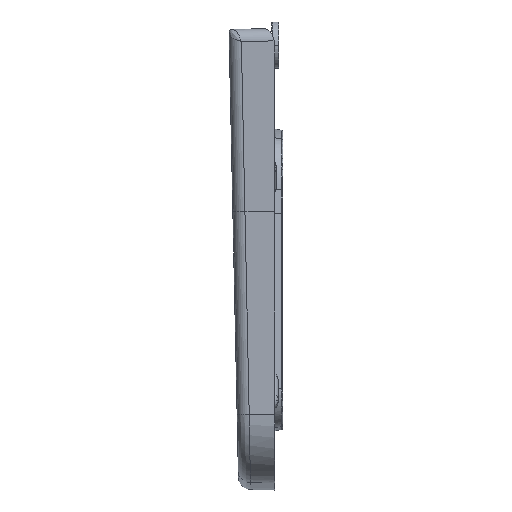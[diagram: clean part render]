
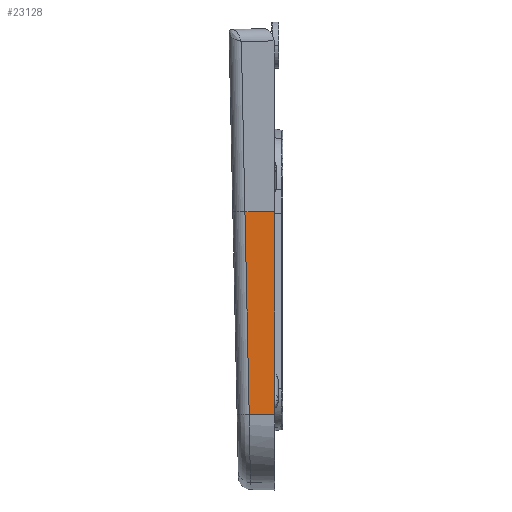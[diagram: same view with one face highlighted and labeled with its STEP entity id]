
A CAD part, left-side view. The second image highlights one B-rep face of the part: STEP entity #23128.
In plain terms, the highlighted planar face has unit normal (-1, 0.021, 0).
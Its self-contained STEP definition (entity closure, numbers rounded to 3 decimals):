
#220 = DIRECTION ( 'NONE',  ( -1., 0.021, 0. ) ) ;
#4369 = CARTESIAN_POINT ( 'NONE',  ( -226.93, 193.862, -192.079 ) ) ;
#4499 = EDGE_CURVE ( 'NONE', #50818, #34658, #5370, .T. ) ;
#4712 = VECTOR ( 'NONE', #37042, 1000. ) ;
#4834 = CARTESIAN_POINT ( 'NONE',  ( -227.449, 169.087, 4.96 ) ) ;
#5293 = VERTEX_POINT ( 'NONE', #8144 ) ;
#5370 = LINE ( 'NONE', #37783, #46593 ) ;
#6317 = DIRECTION ( 'NONE',  ( 0., 0.021, 1. ) ) ;
#6361 = EDGE_LOOP ( 'NONE', ( #27577, #15275, #13563, #51138 ) ) ;
#6407 = DIRECTION ( 'NONE',  ( -0.021, -1., 0. ) ) ;
#8093 = PLANE ( 'NONE',  #21524 ) ;
#8144 = CARTESIAN_POINT ( 'NONE',  ( -227.449, 169.087, 4.96 ) ) ;
#13563 = ORIENTED_EDGE ( 'NONE', *, *, #49276, .F. ) ;
#15275 = ORIENTED_EDGE ( 'NONE', *, *, #44380, .F. ) ;
#15901 = LINE ( 'NONE', #48025, #4712 ) ;
#17578 = VECTOR ( 'NONE', #36815, 1000. ) ;
#17597 = CARTESIAN_POINT ( 'NONE',  ( -227.449, 169.087, -192.079 ) ) ;
#21354 = LINE ( 'NONE', #4834, #17578 ) ;
#21524 = AXIS2_PLACEMENT_3D ( 'NONE', #44275, #220, #36588 ) ;
#22792 = CARTESIAN_POINT ( 'NONE',  ( -226.843, 198.02, 4.96 ) ) ;
#23128 = ADVANCED_FACE ( 'NONE', ( #30533 ), #8093, .T. ) ;
#25982 = VERTEX_POINT ( 'NONE', #41820 ) ;
#27577 = ORIENTED_EDGE ( 'NONE', *, *, #47963, .T. ) ;
#30155 = VECTOR ( 'NONE', #6407, 1000. ) ;
#30533 = FACE_OUTER_BOUND ( 'NONE', #6361, .T. ) ;
#34658 = VERTEX_POINT ( 'NONE', #22792 ) ;
#36588 = DIRECTION ( 'NONE',  ( -0.021, -1., 0. ) ) ;
#36815 = DIRECTION ( 'NONE',  ( -0.021, -1., 0. ) ) ;
#37042 = DIRECTION ( 'NONE',  ( 0., 0., -1. ) ) ;
#37783 = CARTESIAN_POINT ( 'NONE',  ( -226.843, 198.025, 5.208 ) ) ;
#41820 = CARTESIAN_POINT ( 'NONE',  ( -227.449, 169.087, -192.079 ) ) ;
#43300 = LINE ( 'NONE', #17597, #30155 ) ;
#44275 = CARTESIAN_POINT ( 'NONE',  ( -227.449, 169.087, -192.079 ) ) ;
#44380 = EDGE_CURVE ( 'NONE', #5293, #25982, #15901, .T. ) ;
#46593 = VECTOR ( 'NONE', #6317, 1000. ) ;
#47963 = EDGE_CURVE ( 'NONE', #50818, #25982, #43300, .T. ) ;
#48025 = CARTESIAN_POINT ( 'NONE',  ( -227.449, 169.087, -192.079 ) ) ;
#49276 = EDGE_CURVE ( 'NONE', #34658, #5293, #21354, .T. ) ;
#50818 = VERTEX_POINT ( 'NONE', #4369 ) ;
#51138 = ORIENTED_EDGE ( 'NONE', *, *, #4499, .F. ) ;
